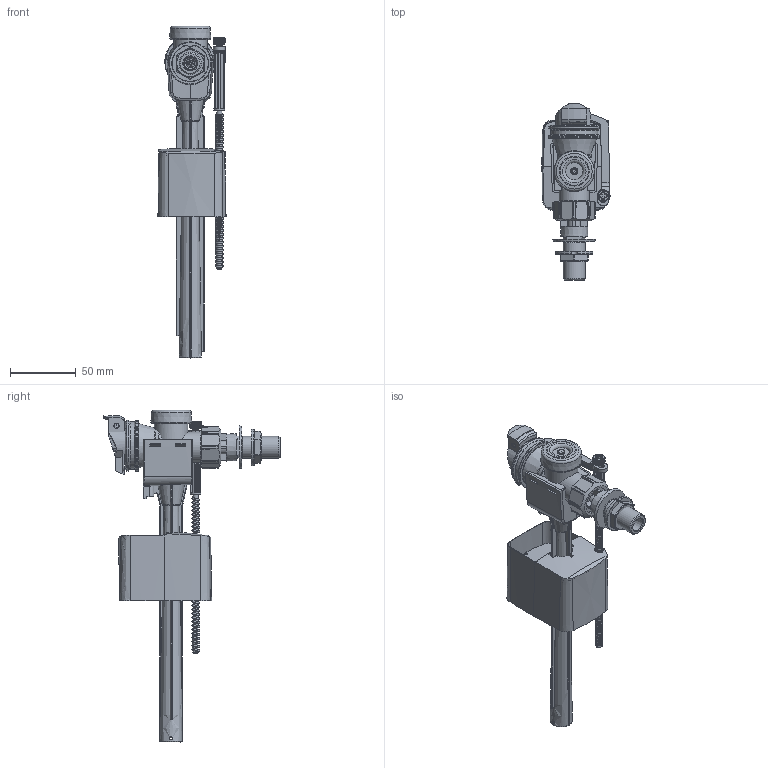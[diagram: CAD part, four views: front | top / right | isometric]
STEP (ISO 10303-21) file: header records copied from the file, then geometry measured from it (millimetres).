
FILE_DESCRIPTION( ( 'STEP AP214' ), '1' );
FILE_NAME( 'C:/Users/ilukic/Documents/ex/paket5/fullventile/FV Typ 333 WAs 3_8'''' u 1_2'''' Ms/136724.stp', '2020-12-15T08:40:51', ( 'License CC BY-ND 4.0' ), ( 'CADENAS' ), ' ', 'PARTsolutions', ' ' );
FILE_SCHEMA( ( 'AUTOMOTIVE_DESIGN { 1 0 10303 214 1 1 1 1 }' ) );
Length unit declared in the file: millimetre
Products named in the file (16): 136724; _136.724.00.3_Gehause; _136.724.00.3_Uberwurfmutter; _136.724.00.3_Einlaufrohr; _136.724.00.3_Spindel; _136.724.00.3_Schwimmer; _136.724.00.3_PAB Nippel; _136.724.00.3_Unterlegscheibe; _136.724.00.3_Kontermutter; _136.724.00.3_Gehauseverschluss; _136.724.00.3_Hebel_Stopfen; _136.724.00.3_Beluftungsaufsatz; _136.724.00.3_Kolben mit D15.5; _136.724.00.3_Drossel 3-fach geschlitz; _136.724.00.3_Kolbendichtung; _136.724.00.3_Duese_flache Spitze
Assembly tree (15 placements, depth 2):
  136724
    _136.724.00.3_Gehause
    _136.724.00.3_Uberwurfmutter
    _136.724.00.3_Einlaufrohr
    _136.724.00.3_Spindel
    _136.724.00.3_Schwimmer
    _136.724.00.3_PAB Nippel
    _136.724.00.3_Unterlegscheibe
    _136.724.00.3_Kontermutter
    _136.724.00.3_Gehauseverschluss
    _136.724.00.3_Hebel_Stopfen
    _136.724.00.3_Beluftungsaufsatz
    _136.724.00.3_Kolben mit D15.5
    _136.724.00.3_Drossel 3-fach geschlitz
    _136.724.00.3_Kolbendichtung
    _136.724.00.3_Duese_flache Spitze
Bounding box: 51.6 x 133.5 x 251.58 mm (x, y, z)
Volume: 105999.9 mm3; surface area: 123162.5 mm2
Topology: 15 solids, 15 shells, 2080 faces, 5572 edges, 3575 vertices
Faces by surface type: plane 814, cylinder 683, cone 306, torus 168, bspline 94, sphere 15
Full cylindrical faces by diameter (mm): 1 x1, 1.5 x2, 2.3 x1, 2.33 x2, 3 x1, 3.7 x2, 3.75 x1, 4 x42, 5 x1, 5.5 x1, 5.8 x2, 6.3 x1, 8 x1, 8.5 x1, 10 x1, 10.16 x1, 12 x1, 13 x3, 14.65 x1, 14.95 x1, 15.6 x1, 16.662 x1, 16.8 x2, 17.3 x1, 18.4 x2, 19.75 x2, 19.8 x1, 19.9 x1, 20 x1, 20.4 x1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
Entity records: 89616 total; most frequent: CARTESIAN_POINT 24288, ORIENTED_EDGE 10324, DIRECTION 9358, EDGE_CURVE 5162, AXIS2_PLACEMENT_3D 3703, VERTEX_POINT 3522, EDGE_LOOP 2557, FACE_OUTER_BOUND 2276
